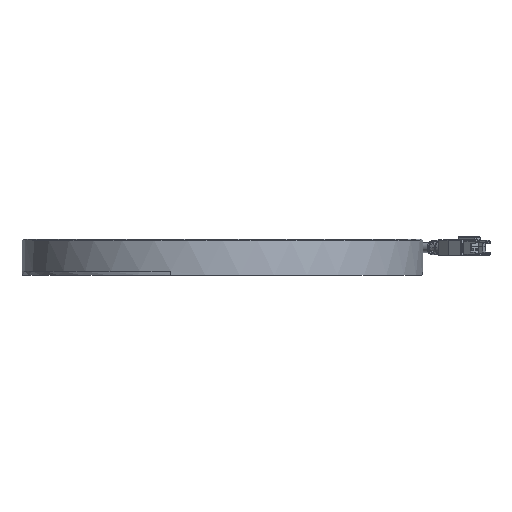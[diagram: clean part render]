
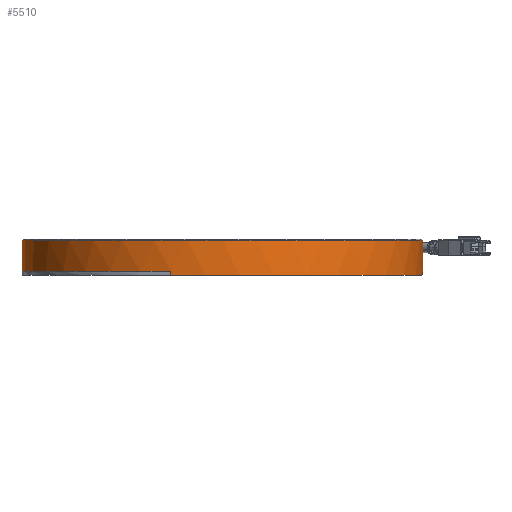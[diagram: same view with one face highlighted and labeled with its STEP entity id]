
A CAD part, left-side view. The second image highlights one B-rep face of the part: STEP entity #5510.
In plain terms, the highlighted cylindrical face has radius 100 mm (diameter 200 mm), a partial arc.
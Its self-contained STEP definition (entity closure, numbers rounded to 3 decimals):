
#819=CARTESIAN_POINT('',(0.,0.,-16.));
#820=DIRECTION('',(0.,0.,-1.));
#821=DIRECTION('',(0.966,-0.259,0.));
#822=AXIS2_PLACEMENT_3D('',#819,#820,#821);
#829=DIRECTION('',(0.,0.,-1.));
#830=VECTOR('',#829,15.5);
#831=CARTESIAN_POINT('',(0.,-100.,1.5));
#832=LINE('',#831,#830);
#833=DIRECTION('',(0.,0.,1.));
#834=VECTOR('',#833,2.);
#835=CARTESIAN_POINT('',(96.593,-25.882,-16.));
#836=LINE('',#835,#834);
#837=DIRECTION('',(0.,0.,-1.));
#838=VECTOR('',#837,2.);
#839=CARTESIAN_POINT('',(-96.593,25.882,-14.));
#840=LINE('',#839,#838);
#841=CARTESIAN_POINT('',(0.,0.,-14.));
#842=DIRECTION('',(0.,0.,-1.));
#843=DIRECTION('',(-0.966,0.259,0.));
#844=AXIS2_PLACEMENT_3D('',#841,#842,#843);
#846=DIRECTION('',(0.,0.,1.));
#847=VECTOR('',#846,15.5);
#848=CARTESIAN_POINT('',(0.,100.,-14.));
#849=LINE('',#848,#847);
#850=CARTESIAN_POINT('',(0.,0.,-14.));
#851=DIRECTION('',(0.,0.,-1.));
#852=DIRECTION('',(0.966,-0.259,0.));
#853=AXIS2_PLACEMENT_3D('',#850,#851,#852);
#973=CARTESIAN_POINT('',(0.,0.,1.5));
#974=DIRECTION('',(0.,0.,1.));
#975=DIRECTION('',(0.,1.,0.));
#976=AXIS2_PLACEMENT_3D('',#973,#974,#975);
#3549=CARTESIAN_POINT('',(0.,-100.,1.5));
#3550=CARTESIAN_POINT('',(0.,100.,1.5));
#3551=VERTEX_POINT('',#3549);
#3552=VERTEX_POINT('',#3550);
#3658=CARTESIAN_POINT('',(-96.593,25.882,-16.));
#3659=CARTESIAN_POINT('',(96.593,-25.882,-16.));
#3660=VERTEX_POINT('',#3658);
#3661=VERTEX_POINT('',#3659);
#4222=CARTESIAN_POINT('',(96.593,-25.882,-14.));
#4223=CARTESIAN_POINT('',(0.,-100.,-14.));
#4224=VERTEX_POINT('',#4222);
#4225=VERTEX_POINT('',#4223);
#4226=CARTESIAN_POINT('',(-96.593,25.882,-14.));
#4227=CARTESIAN_POINT('',(0.,100.,-14.));
#4228=VERTEX_POINT('',#4226);
#4229=VERTEX_POINT('',#4227);
#5488=CARTESIAN_POINT('',(0.,0.,0.7));
#5489=DIRECTION('',(0.,0.,-1.));
#5490=DIRECTION('',(0.,-1.,0.));
#5491=AXIS2_PLACEMENT_3D('',#5488,#5489,#5490);
#5492=CYLINDRICAL_SURFACE('',#5491,100.);
#5494=ORIENTED_EDGE('',*,*,#5493,.T.);
#5496=ORIENTED_EDGE('',*,*,#5495,.F.);
#5498=ORIENTED_EDGE('',*,*,#5497,.F.);
#5499=ORIENTED_EDGE('',*,*,#5477,.T.);
#5501=ORIENTED_EDGE('',*,*,#5500,.F.);
#5503=ORIENTED_EDGE('',*,*,#5502,.T.);
#5505=ORIENTED_EDGE('',*,*,#5504,.T.);
#5507=ORIENTED_EDGE('',*,*,#5506,.T.);
#5508=EDGE_LOOP('',(#5494,#5496,#5498,#5499,#5501,#5503,#5505,#5507));
#5509=FACE_OUTER_BOUND('',#5508,.F.);
#5510=ADVANCED_FACE('',(#5509),#5492,.T.);
#823=CIRCLE('',#822,100.);
#845=CIRCLE('',#844,100.);
#854=CIRCLE('',#853,100.);
#977=CIRCLE('',#976,100.);
#5477=EDGE_CURVE('',#3661,#3660,#823,.T.);
#5493=EDGE_CURVE('',#3551,#4225,#832,.T.);
#5495=EDGE_CURVE('',#4224,#4225,#854,.T.);
#5497=EDGE_CURVE('',#3661,#4224,#836,.T.);
#5500=EDGE_CURVE('',#4228,#3660,#840,.T.);
#5502=EDGE_CURVE('',#4228,#4229,#845,.T.);
#5504=EDGE_CURVE('',#4229,#3552,#849,.T.);
#5506=EDGE_CURVE('',#3552,#3551,#977,.T.);
